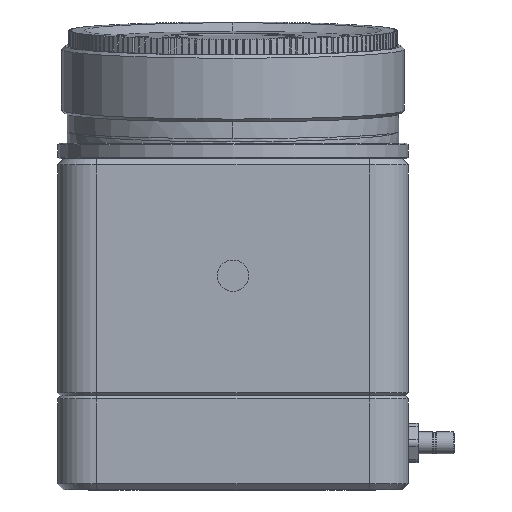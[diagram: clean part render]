
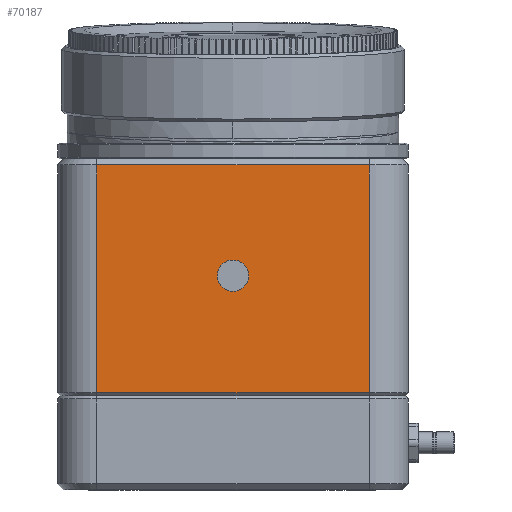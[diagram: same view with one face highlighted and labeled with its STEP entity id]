
A CAD part, front view. The second image highlights one B-rep face of the part: STEP entity #70187.
In plain terms, the highlighted planar face has unit normal (0, -1, 0).
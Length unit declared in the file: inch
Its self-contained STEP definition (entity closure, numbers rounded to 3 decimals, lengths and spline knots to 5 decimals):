
#1730 = DIRECTION ( 'NONE',  ( 1., 0., 0. ) ) ;
#2506 = VERTEX_POINT ( 'NONE', #39828 ) ;
#4142 = ORIENTED_EDGE ( 'NONE', *, *, #35863, .T. ) ;
#4499 = AXIS2_PLACEMENT_3D ( 'NONE', #50973, #57013, #13575 ) ;
#6095 = VECTOR ( 'NONE', #14680, 39.37008 ) ;
#7676 = CARTESIAN_POINT ( 'NONE',  ( 0., -1.125, -0.8505 ) ) ;
#9451 = FACE_BOUND ( 'NONE', #31763, .T. ) ;
#11098 = EDGE_CURVE ( 'NONE', #37812, #26762, #22850, .T. ) ;
#13471 = VECTOR ( 'NONE', #54435, 39.37008 ) ;
#13575 = DIRECTION ( 'NONE',  ( 0., 0., -1. ) ) ;
#14680 = DIRECTION ( 'NONE',  ( 0., 0., -1. ) ) ;
#14835 = ORIENTED_EDGE ( 'NONE', *, *, #11098, .T. ) ;
#15543 = EDGE_CURVE ( 'NONE', #2506, #73224, #21650, .T. ) ;
#20721 = PLANE ( 'NONE',  #74282 ) ;
#21161 = VECTOR ( 'NONE', #66133, 39.37008 ) ;
#21650 = CIRCLE ( 'NONE', #4499, 0.1005 ) ;
#22432 = CARTESIAN_POINT ( 'NONE',  ( 0.875, -1.125, -1.50147 ) ) ;
#22441 = EDGE_CURVE ( 'NONE', #64117, #60019, #63645, .T. ) ;
#22850 = LINE ( 'NONE', #58943, #6095 ) ;
#23368 = DIRECTION ( 'NONE',  ( 0., 0., -1. ) ) ;
#23912 = CARTESIAN_POINT ( 'NONE',  ( 0.875, -1.125, -1.52116 ) ) ;
#26762 = VERTEX_POINT ( 'NONE', #69682 ) ;
#30227 = EDGE_CURVE ( 'NONE', #73224, #2506, #43892, .T. ) ;
#31639 = AXIS2_PLACEMENT_3D ( 'NONE', #48645, #54428, #23368 ) ;
#31763 = EDGE_LOOP ( 'NONE', ( #45773, #59521 ) ) ;
#32052 = ORIENTED_EDGE ( 'NONE', *, *, #22441, .T. ) ;
#32700 = CARTESIAN_POINT ( 'NONE',  ( 1.125, -1.125, -0.03937 ) ) ;
#35863 = EDGE_CURVE ( 'NONE', #60019, #37812, #68115, .T. ) ;
#37812 = VERTEX_POINT ( 'NONE', #52375 ) ;
#39828 = CARTESIAN_POINT ( 'NONE',  ( 0., -1.125, -0.6495 ) ) ;
#43892 = CIRCLE ( 'NONE', #31639, 0.1005 ) ;
#44969 = CARTESIAN_POINT ( 'NONE',  ( 1.125, -1.125, -1.52116 ) ) ;
#45773 = ORIENTED_EDGE ( 'NONE', *, *, #30227, .F. ) ;
#48645 = CARTESIAN_POINT ( 'NONE',  ( 0., -1.125, -0.75 ) ) ;
#49522 = EDGE_CURVE ( 'NONE', #26762, #64117, #57551, .T. ) ;
#50973 = CARTESIAN_POINT ( 'NONE',  ( 0., -1.125, -0.75 ) ) ;
#52375 = CARTESIAN_POINT ( 'NONE',  ( -0.875, -1.125, -0.03937 ) ) ;
#54428 = DIRECTION ( 'NONE',  ( 0., -1., 0. ) ) ;
#54435 = DIRECTION ( 'NONE',  ( 0., 0., 1. ) ) ;
#56313 = EDGE_LOOP ( 'NONE', ( #14835, #79616, #32052, #4142 ) ) ;
#57013 = DIRECTION ( 'NONE',  ( 0., -1., 0. ) ) ;
#57551 = LINE ( 'NONE', #22432, #21161 ) ;
#58144 = DIRECTION ( 'NONE',  ( 0., -1., 0. ) ) ;
#58943 = CARTESIAN_POINT ( 'NONE',  ( -0.875, -1.125, -1.52116 ) ) ;
#59521 = ORIENTED_EDGE ( 'NONE', *, *, #15543, .F. ) ;
#60019 = VERTEX_POINT ( 'NONE', #68810 ) ;
#61292 = VECTOR ( 'NONE', #71145, 39.37008 ) ;
#63645 = LINE ( 'NONE', #23912, #13471 ) ;
#64117 = VERTEX_POINT ( 'NONE', #64597 ) ;
#64597 = CARTESIAN_POINT ( 'NONE',  ( 0.875, -1.125, -1.50147 ) ) ;
#66133 = DIRECTION ( 'NONE',  ( 1., 0., 0. ) ) ;
#68115 = LINE ( 'NONE', #32700, #61292 ) ;
#68810 = CARTESIAN_POINT ( 'NONE',  ( 0.875, -1.125, -0.03937 ) ) ;
#69682 = CARTESIAN_POINT ( 'NONE',  ( -0.875, -1.125, -1.50147 ) ) ;
#70187 = ADVANCED_FACE ( 'NONE', ( #9451, #80334 ), #20721, .T. ) ;
#71145 = DIRECTION ( 'NONE',  ( -1., 0., 0. ) ) ;
#73224 = VERTEX_POINT ( 'NONE', #7676 ) ;
#74282 = AXIS2_PLACEMENT_3D ( 'NONE', #44969, #58144, #1730 ) ;
#79616 = ORIENTED_EDGE ( 'NONE', *, *, #49522, .T. ) ;
#80334 = FACE_OUTER_BOUND ( 'NONE', #56313, .T. ) ;
